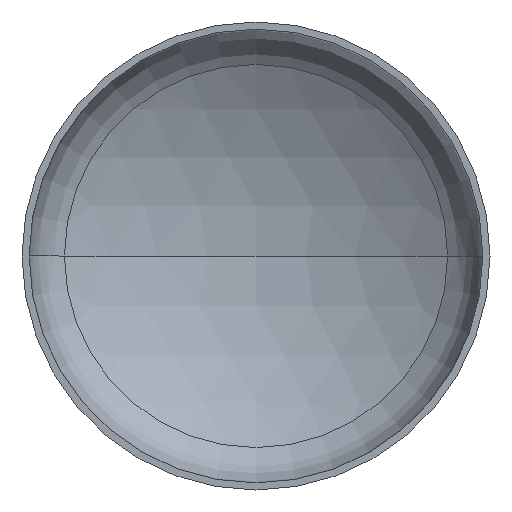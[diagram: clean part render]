
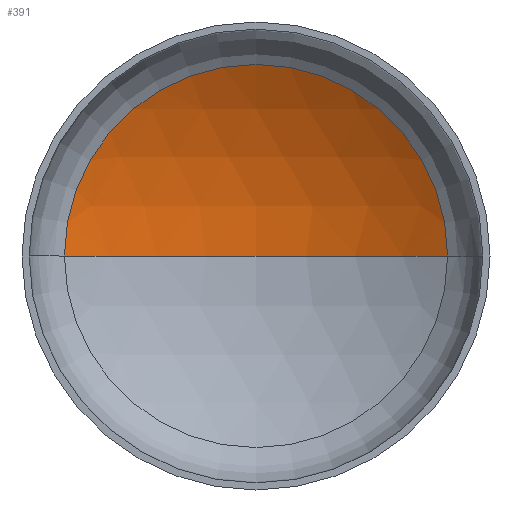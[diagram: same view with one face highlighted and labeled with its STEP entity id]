
A CAD part, front view. The second image highlights one B-rep face of the part: STEP entity #391.
In plain terms, the highlighted spherical face has radius 2720 mm.
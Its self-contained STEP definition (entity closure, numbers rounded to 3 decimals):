
#12 = AXIS2_PLACEMENT_3D ( 'NONE', #107, #306, #137 ) ;
#13 = AXIS2_PLACEMENT_3D ( 'NONE', #224, #18, #250 ) ;
#16 = AXIS2_PLACEMENT_3D ( 'NONE', #333, #167, #360 ) ;
#18 = DIRECTION ( 'NONE',  ( 0., 0., -1. ) ) ;
#45 = CARTESIAN_POINT ( 'NONE',  ( 1391.599, 571.087, 0. ) ) ;
#48 = DIRECTION ( 'NONE',  ( 0., 0., -1. ) ) ;
#61 = EDGE_CURVE ( 'NONE', #343, #101, #410, .T. ) ;
#62 = EDGE_CURVE ( 'NONE', #238, #343, #339, .T. ) ;
#63 = EDGE_CURVE ( 'NONE', #238, #101, #189, .T. ) ;
#101 = VERTEX_POINT ( 'NONE', #195 ) ;
#105 = ORIENTED_EDGE ( 'NONE', *, *, #61, .T. ) ;
#107 = CARTESIAN_POINT ( 'NONE',  ( 0., -1765.973, 0. ) ) ;
#113 = EDGE_LOOP ( 'NONE', ( #217, #220, #105 ) ) ;
#137 = DIRECTION ( 'NONE',  ( 1., 0., 0. ) ) ;
#141 = CARTESIAN_POINT ( 'NONE',  ( 0., 954.027, 0. ) ) ;
#167 = DIRECTION ( 'NONE',  ( 0., -1., 0. ) ) ;
#189 = CIRCLE ( 'NONE', #12, 2720. ) ;
#195 = CARTESIAN_POINT ( 'NONE',  ( -1391.599, 571.087, 0. ) ) ;
#202 = FACE_OUTER_BOUND ( 'NONE', #113, .T. ) ;
#209 = AXIS2_PLACEMENT_3D ( 'NONE', #316, #48, #375 ) ;
#217 = ORIENTED_EDGE ( 'NONE', *, *, #63, .F. ) ;
#220 = ORIENTED_EDGE ( 'NONE', *, *, #62, .T. ) ;
#224 = CARTESIAN_POINT ( 'NONE',  ( 0., -1765.973, 0. ) ) ;
#238 = VERTEX_POINT ( 'NONE', #141 ) ;
#250 = DIRECTION ( 'NONE',  ( -1., 0., 0. ) ) ;
#272 = SPHERICAL_SURFACE ( 'NONE', #209, 2720. ) ;
#306 = DIRECTION ( 'NONE',  ( 0., 0., 1. ) ) ;
#316 = CARTESIAN_POINT ( 'NONE',  ( 0., -1765.973, 0. ) ) ;
#333 = CARTESIAN_POINT ( 'NONE',  ( 0., 571.087, 0. ) ) ;
#339 = CIRCLE ( 'NONE', #13, 2720. ) ;
#343 = VERTEX_POINT ( 'NONE', #45 ) ;
#360 = DIRECTION ( 'NONE',  ( 1., 0., 0. ) ) ;
#375 = DIRECTION ( 'NONE',  ( -1., 0., 0. ) ) ;
#391 = ADVANCED_FACE ( 'NONE', ( #202 ), #272, .F. ) ;
#410 = CIRCLE ( 'NONE', #16, 1391.599 ) ;
